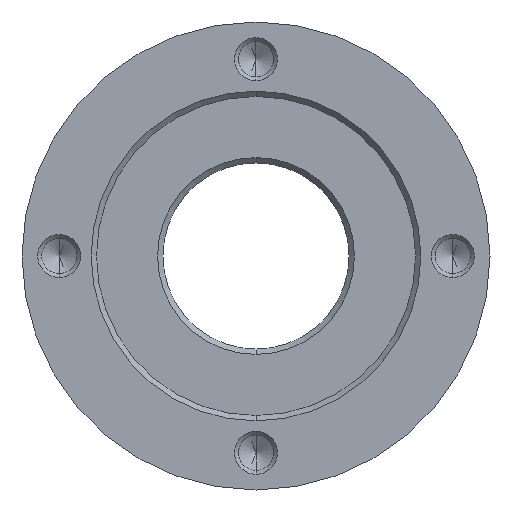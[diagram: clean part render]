
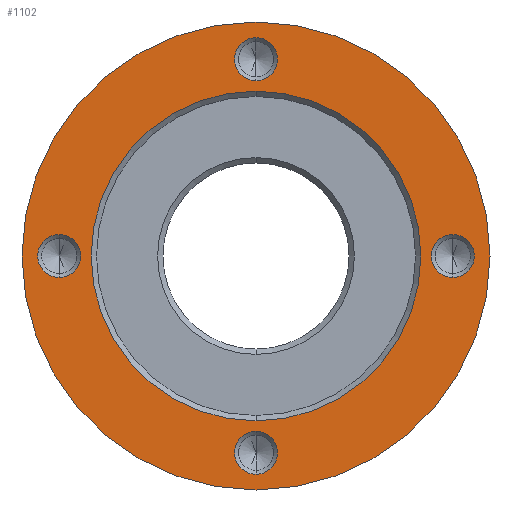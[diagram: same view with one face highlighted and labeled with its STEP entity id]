
A CAD part, front view. The second image highlights one B-rep face of the part: STEP entity #1102.
In plain terms, the highlighted planar face has unit normal (0, -1, 0).
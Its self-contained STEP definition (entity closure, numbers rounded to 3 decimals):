
#6 = DIRECTION ( 'NONE',  ( 0., -1., 0. ) ) ;
#7 = VERTEX_POINT ( 'NONE', #669 ) ;
#11 = CARTESIAN_POINT ( 'NONE',  ( 0., 0., 18.5 ) ) ;
#17 = DIRECTION ( 'NONE',  ( 0., 0., -1. ) ) ;
#25 = AXIS2_PLACEMENT_3D ( 'NONE', #192, #111, #573 ) ;
#52 = CARTESIAN_POINT ( 'NONE',  ( 18.5, 0., 0. ) ) ;
#53 = EDGE_CURVE ( 'NONE', #1071, #699, #892, .T. ) ;
#58 = CARTESIAN_POINT ( 'NONE',  ( 0., 0., 0. ) ) ;
#75 = ORIENTED_EDGE ( 'NONE', *, *, #53, .F. ) ;
#91 = ORIENTED_EDGE ( 'NONE', *, *, #224, .T. ) ;
#101 = DIRECTION ( 'NONE',  ( 0., 0., -1. ) ) ;
#111 = DIRECTION ( 'NONE',  ( 0., 1., 0. ) ) ;
#131 = CIRCLE ( 'NONE', #653, 2.025 ) ;
#159 = VERTEX_POINT ( 'NONE', #690 ) ;
#161 = EDGE_CURVE ( 'NONE', #757, #1153, #131, .T. ) ;
#162 = CARTESIAN_POINT ( 'NONE',  ( 0., 0., 16.475 ) ) ;
#182 = CARTESIAN_POINT ( 'NONE',  ( 0., 0., 22. ) ) ;
#192 = CARTESIAN_POINT ( 'NONE',  ( 0., 0., 0. ) ) ;
#194 = EDGE_CURVE ( 'NONE', #699, #1071, #983, .T. ) ;
#199 = DIRECTION ( 'NONE',  ( 0., -1., 0. ) ) ;
#204 = CARTESIAN_POINT ( 'NONE',  ( 0., 0., -18.5 ) ) ;
#211 = DIRECTION ( 'NONE',  ( 0., -1., 0. ) ) ;
#213 = FACE_BOUND ( 'NONE', #969, .T. ) ;
#224 = EDGE_CURVE ( 'NONE', #485, #851, #463, .T. ) ;
#228 = DIRECTION ( 'NONE',  ( 0., -1., 0. ) ) ;
#245 = DIRECTION ( 'NONE',  ( 0., -1., 0. ) ) ;
#257 = AXIS2_PLACEMENT_3D ( 'NONE', #52, #245, #908 ) ;
#267 = CARTESIAN_POINT ( 'NONE',  ( -18.5, 0., 0. ) ) ;
#274 = EDGE_LOOP ( 'NONE', ( #776, #338 ) ) ;
#278 = EDGE_CURVE ( 'NONE', #7, #744, #348, .T. ) ;
#289 = ORIENTED_EDGE ( 'NONE', *, *, #194, .F. ) ;
#294 = DIRECTION ( 'NONE',  ( 0., 0., -1. ) ) ;
#308 = EDGE_CURVE ( 'NONE', #159, #1203, #832, .T. ) ;
#317 = AXIS2_PLACEMENT_3D ( 'NONE', #267, #6, #343 ) ;
#328 = DIRECTION ( 'NONE',  ( 0., -1., 0. ) ) ;
#338 = ORIENTED_EDGE ( 'NONE', *, *, #543, .F. ) ;
#342 = EDGE_CURVE ( 'NONE', #443, #910, #1083, .T. ) ;
#343 = DIRECTION ( 'NONE',  ( 0., 0., -1. ) ) ;
#348 = CIRCLE ( 'NONE', #872, 15.5 ) ;
#369 = EDGE_CURVE ( 'NONE', #910, #443, #697, .T. ) ;
#375 = CARTESIAN_POINT ( 'NONE',  ( 0., 0., 20.525 ) ) ;
#381 = ORIENTED_EDGE ( 'NONE', *, *, #369, .F. ) ;
#384 = CARTESIAN_POINT ( 'NONE',  ( 0., 0., 0. ) ) ;
#435 = EDGE_CURVE ( 'NONE', #1203, #159, #1168, .T. ) ;
#442 = ORIENTED_EDGE ( 'NONE', *, *, #278, .T. ) ;
#443 = VERTEX_POINT ( 'NONE', #954 ) ;
#463 = CIRCLE ( 'NONE', #858, 22. ) ;
#466 = EDGE_LOOP ( 'NONE', ( #894, #442 ) ) ;
#474 = DIRECTION ( 'NONE',  ( 0., 0., -1. ) ) ;
#478 = PLANE ( 'NONE',  #580 ) ;
#485 = VERTEX_POINT ( 'NONE', #182 ) ;
#503 = DIRECTION ( 'NONE',  ( 0., -1., 0. ) ) ;
#510 = CARTESIAN_POINT ( 'NONE',  ( 0., 0., 0. ) ) ;
#526 = CARTESIAN_POINT ( 'NONE',  ( 18.5, 0., -2.025 ) ) ;
#536 = CARTESIAN_POINT ( 'NONE',  ( 0., 0., -15.5 ) ) ;
#543 = EDGE_CURVE ( 'NONE', #1153, #757, #1165, .T. ) ;
#562 = CARTESIAN_POINT ( 'NONE',  ( 0., 0., -16.475 ) ) ;
#573 = DIRECTION ( 'NONE',  ( 0., 0., -1. ) ) ;
#574 = DIRECTION ( 'NONE',  ( 0., -1., 0. ) ) ;
#576 = EDGE_CURVE ( 'NONE', #744, #7, #585, .T. ) ;
#580 = AXIS2_PLACEMENT_3D ( 'NONE', #670, #199, #101 ) ;
#583 = FACE_BOUND ( 'NONE', #466, .T. ) ;
#585 = CIRCLE ( 'NONE', #25, 15.5 ) ;
#619 = CARTESIAN_POINT ( 'NONE',  ( -18.5, 0., 0. ) ) ;
#622 = EDGE_LOOP ( 'NONE', ( #1154, #912 ) ) ;
#648 = EDGE_LOOP ( 'NONE', ( #381, #1016 ) ) ;
#653 = AXIS2_PLACEMENT_3D ( 'NONE', #798, #503, #888 ) ;
#656 = AXIS2_PLACEMENT_3D ( 'NONE', #204, #574, #294 ) ;
#669 = CARTESIAN_POINT ( 'NONE',  ( 0., 0., 15.5 ) ) ;
#670 = CARTESIAN_POINT ( 'NONE',  ( 22., 0., 0. ) ) ;
#679 = AXIS2_PLACEMENT_3D ( 'NONE', #986, #211, #1075 ) ;
#690 = CARTESIAN_POINT ( 'NONE',  ( -18.5, 0., -2.025 ) ) ;
#697 = CIRCLE ( 'NONE', #769, 2.025 ) ;
#699 = VERTEX_POINT ( 'NONE', #1176 ) ;
#708 = DIRECTION ( 'NONE',  ( 0., 0., -1. ) ) ;
#725 = AXIS2_PLACEMENT_3D ( 'NONE', #11, #974, #474 ) ;
#740 = FACE_BOUND ( 'NONE', #274, .T. ) ;
#744 = VERTEX_POINT ( 'NONE', #536 ) ;
#746 = ORIENTED_EDGE ( 'NONE', *, *, #1118, .T. ) ;
#757 = VERTEX_POINT ( 'NONE', #162 ) ;
#769 = AXIS2_PLACEMENT_3D ( 'NONE', #807, #228, #900 ) ;
#776 = ORIENTED_EDGE ( 'NONE', *, *, #161, .F. ) ;
#793 = DIRECTION ( 'NONE',  ( 0., -1., 0. ) ) ;
#798 = CARTESIAN_POINT ( 'NONE',  ( 0., 0., 18.5 ) ) ;
#807 = CARTESIAN_POINT ( 'NONE',  ( 18.5, 0., 0. ) ) ;
#808 = CARTESIAN_POINT ( 'NONE',  ( -18.5, 0., 2.025 ) ) ;
#815 = FACE_OUTER_BOUND ( 'NONE', #999, .T. ) ;
#816 = DIRECTION ( 'NONE',  ( 0., 0., -1. ) ) ;
#832 = CIRCLE ( 'NONE', #1003, 2.025 ) ;
#851 = VERTEX_POINT ( 'NONE', #1115 ) ;
#858 = AXIS2_PLACEMENT_3D ( 'NONE', #510, #793, #884 ) ;
#871 = DIRECTION ( 'NONE',  ( 0., -1., 0. ) ) ;
#872 = AXIS2_PLACEMENT_3D ( 'NONE', #58, #995, #816 ) ;
#874 = FACE_BOUND ( 'NONE', #648, .T. ) ;
#884 = DIRECTION ( 'NONE',  ( 0., 0., -1. ) ) ;
#888 = DIRECTION ( 'NONE',  ( 0., 0., -1. ) ) ;
#892 = CIRCLE ( 'NONE', #656, 2.025 ) ;
#894 = ORIENTED_EDGE ( 'NONE', *, *, #576, .T. ) ;
#900 = DIRECTION ( 'NONE',  ( 0., 0., -1. ) ) ;
#908 = DIRECTION ( 'NONE',  ( 0., 0., -1. ) ) ;
#910 = VERTEX_POINT ( 'NONE', #526 ) ;
#912 = ORIENTED_EDGE ( 'NONE', *, *, #435, .F. ) ;
#954 = CARTESIAN_POINT ( 'NONE',  ( 18.5, 0., 2.025 ) ) ;
#969 = EDGE_LOOP ( 'NONE', ( #289, #75 ) ) ;
#974 = DIRECTION ( 'NONE',  ( 0., -1., 0. ) ) ;
#983 = CIRCLE ( 'NONE', #679, 2.025 ) ;
#986 = CARTESIAN_POINT ( 'NONE',  ( 0., 0., -18.5 ) ) ;
#993 = CIRCLE ( 'NONE', #1210, 22. ) ;
#995 = DIRECTION ( 'NONE',  ( 0., 1., 0. ) ) ;
#999 = EDGE_LOOP ( 'NONE', ( #746, #91 ) ) ;
#1003 = AXIS2_PLACEMENT_3D ( 'NONE', #619, #328, #708 ) ;
#1016 = ORIENTED_EDGE ( 'NONE', *, *, #342, .F. ) ;
#1071 = VERTEX_POINT ( 'NONE', #562 ) ;
#1075 = DIRECTION ( 'NONE',  ( 0., 0., -1. ) ) ;
#1083 = CIRCLE ( 'NONE', #257, 2.025 ) ;
#1102 = ADVANCED_FACE ( 'NONE', ( #213, #740, #1184, #874, #583, #815 ), #478, .T. ) ;
#1115 = CARTESIAN_POINT ( 'NONE',  ( 0., 0., -22. ) ) ;
#1118 = EDGE_CURVE ( 'NONE', #851, #485, #993, .T. ) ;
#1153 = VERTEX_POINT ( 'NONE', #375 ) ;
#1154 = ORIENTED_EDGE ( 'NONE', *, *, #308, .F. ) ;
#1165 = CIRCLE ( 'NONE', #725, 2.025 ) ;
#1168 = CIRCLE ( 'NONE', #317, 2.025 ) ;
#1176 = CARTESIAN_POINT ( 'NONE',  ( 0., 0., -20.525 ) ) ;
#1184 = FACE_BOUND ( 'NONE', #622, .T. ) ;
#1203 = VERTEX_POINT ( 'NONE', #808 ) ;
#1210 = AXIS2_PLACEMENT_3D ( 'NONE', #384, #871, #17 ) ;
